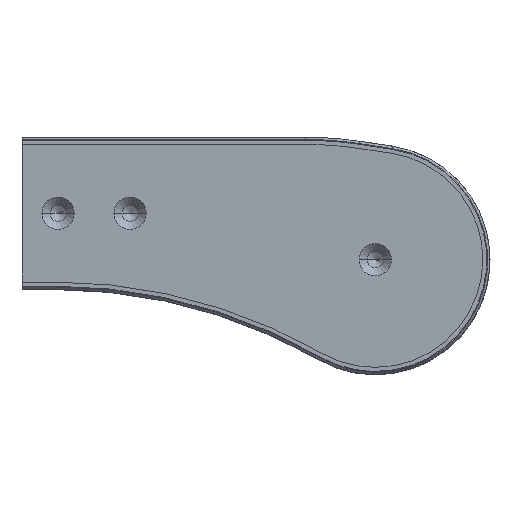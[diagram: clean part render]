
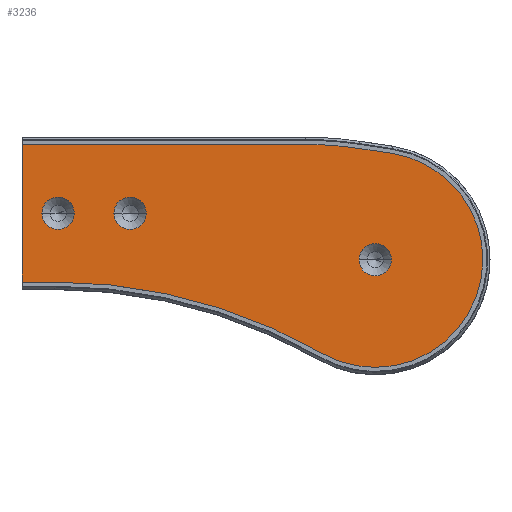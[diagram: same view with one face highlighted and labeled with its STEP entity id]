
A CAD part, top view. The second image highlights one B-rep face of the part: STEP entity #3236.
In plain terms, the highlighted planar face has unit normal (0, 0, 1).
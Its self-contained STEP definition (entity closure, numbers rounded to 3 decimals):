
#10 = ORIENTED_EDGE ( 'NONE', *, *, #1603, .T. ) ;
#49 = EDGE_CURVE ( 'NONE', #2266, #1284, #472, .T. ) ;
#74 = LINE ( 'NONE', #1630, #2653 ) ;
#75 = DIRECTION ( 'NONE',  ( 1., 0., 0. ) ) ;
#121 = ORIENTED_EDGE ( 'NONE', *, *, #3304, .F. ) ;
#133 = AXIS2_PLACEMENT_3D ( 'NONE', #1650, #2667, #1082 ) ;
#167 = CARTESIAN_POINT ( 'NONE',  ( 0., 0., 0. ) ) ;
#172 = CIRCLE ( 'NONE', #3316, 8.96 ) ;
#200 = VERTEX_POINT ( 'NONE', #2158 ) ;
#209 = VECTOR ( 'NONE', #242, 1000. ) ;
#225 = AXIS2_PLACEMENT_3D ( 'NONE', #1300, #450, #1549 ) ;
#242 = DIRECTION ( 'NONE',  ( -0.989, 0.149, 0. ) ) ;
#253 = EDGE_CURVE ( 'NONE', #3336, #1460, #1476, .T. ) ;
#256 = AXIS2_PLACEMENT_3D ( 'NONE', #167, #1770, #3082 ) ;
#264 = ORIENTED_EDGE ( 'NONE', *, *, #1746, .F. ) ;
#403 = DIRECTION ( 'NONE',  ( 1., 0., 0. ) ) ;
#450 = DIRECTION ( 'NONE',  ( 0., 0., 1. ) ) ;
#472 = LINE ( 'NONE', #2615, #3447 ) ;
#501 = DIRECTION ( 'NONE',  ( 0., -1., 0. ) ) ;
#515 = ORIENTED_EDGE ( 'NONE', *, *, #49, .T. ) ;
#519 = EDGE_LOOP ( 'NONE', ( #264, #2431 ) ) ;
#549 = ORIENTED_EDGE ( 'NONE', *, *, #2197, .T. ) ;
#578 = EDGE_CURVE ( 'NONE', #830, #2161, #172, .T. ) ;
#603 = CIRCLE ( 'NONE', #2975, 8.96 ) ;
#626 = AXIS2_PLACEMENT_3D ( 'NONE', #873, #1692, #75 ) ;
#643 = EDGE_CURVE ( 'NONE', #1072, #200, #2219, .T. ) ;
#690 = CARTESIAN_POINT ( 'NONE',  ( -178.069, -311.075, 0. ) ) ;
#830 = VERTEX_POINT ( 'NONE', #2447 ) ;
#852 = FACE_BOUND ( 'NONE', #3275, .T. ) ;
#873 = CARTESIAN_POINT ( 'NONE',  ( -38.772, -135.998, 0. ) ) ;
#914 = VECTOR ( 'NONE', #501, 1000. ) ;
#916 = VERTEX_POINT ( 'NONE', #2177 ) ;
#944 = DIRECTION ( 'NONE',  ( 0., 0., 1. ) ) ;
#976 = CARTESIAN_POINT ( 'NONE',  ( 0., 0., 0. ) ) ;
#1012 = CIRCLE ( 'NONE', #256, 59.75 ) ;
#1072 = VERTEX_POINT ( 'NONE', #2758 ) ;
#1082 = DIRECTION ( 'NONE',  ( 1., 0., 0. ) ) ;
#1102 = DIRECTION ( 'NONE',  ( 0., 0., 1. ) ) ;
#1103 = FACE_BOUND ( 'NONE', #519, .T. ) ;
#1111 = CARTESIAN_POINT ( 'NONE',  ( 8.881, 59.086, 0. ) ) ;
#1128 = EDGE_CURVE ( 'NONE', #916, #3302, #1012, .T. ) ;
#1131 = LINE ( 'NONE', #1111, #209 ) ;
#1136 = CIRCLE ( 'NONE', #1248, 8.96 ) ;
#1149 = CIRCLE ( 'NONE', #3333, 8.96 ) ;
#1163 = VERTEX_POINT ( 'NONE', #3056 ) ;
#1171 = DIRECTION ( 'NONE',  ( 1., 0., 0. ) ) ;
#1193 = FACE_OUTER_BOUND ( 'NONE', #2820, .T. ) ;
#1204 = CARTESIAN_POINT ( 'NONE',  ( -9.043, 61.78, 0. ) ) ;
#1237 = DIRECTION ( 'NONE',  ( 0., 0., -1. ) ) ;
#1248 = AXIS2_PLACEMENT_3D ( 'NONE', #1728, #1431, #1171 ) ;
#1284 = VERTEX_POINT ( 'NONE', #1805 ) ;
#1300 = CARTESIAN_POINT ( 'NONE',  ( -176.048, 25.811, 0. ) ) ;
#1431 = DIRECTION ( 'NONE',  ( 0., 0., 1. ) ) ;
#1460 = VERTEX_POINT ( 'NONE', #1624 ) ;
#1468 = VERTEX_POINT ( 'NONE', #2926 ) ;
#1476 = CIRCLE ( 'NONE', #133, 8.96 ) ;
#1483 = VERTEX_POINT ( 'NONE', #1607 ) ;
#1536 = DIRECTION ( 'NONE',  ( 0., 0., 1. ) ) ;
#1544 = DIRECTION ( 'NONE',  ( 1., 0., 0. ) ) ;
#1549 = DIRECTION ( 'NONE',  ( 1., 0., 0. ) ) ;
#1566 = CARTESIAN_POINT ( 'NONE',  ( -136.048, 25.808, 0. ) ) ;
#1579 = DIRECTION ( 'NONE',  ( 1., 0., 0. ) ) ;
#1603 = EDGE_CURVE ( 'NONE', #3027, #1483, #2381, .T. ) ;
#1607 = CARTESIAN_POINT ( 'NONE',  ( -38.76, 64.002, 0. ) ) ;
#1624 = CARTESIAN_POINT ( 'NONE',  ( -8.96, 0., 0. ) ) ;
#1630 = CARTESIAN_POINT ( 'NONE',  ( -38.76, 64.002, 0. ) ) ;
#1650 = CARTESIAN_POINT ( 'NONE',  ( 0., 0., 0. ) ) ;
#1680 = AXIS2_PLACEMENT_3D ( 'NONE', #1839, #2132, #2608 ) ;
#1692 = DIRECTION ( 'NONE',  ( 0., 0., 1. ) ) ;
#1698 = EDGE_LOOP ( 'NONE', ( #2777, #121 ) ) ;
#1708 = ORIENTED_EDGE ( 'NONE', *, *, #2137, .F. ) ;
#1728 = CARTESIAN_POINT ( 'NONE',  ( -176.048, 25.811, 0. ) ) ;
#1745 = CIRCLE ( 'NONE', #1754, 298.685 ) ;
#1746 = EDGE_CURVE ( 'NONE', #200, #1072, #1136, .T. ) ;
#1754 = AXIS2_PLACEMENT_3D ( 'NONE', #690, #1237, #3087 ) ;
#1756 = ORIENTED_EDGE ( 'NONE', *, *, #2093, .T. ) ;
#1759 = AXIS2_PLACEMENT_3D ( 'NONE', #3313, #3345, #403 ) ;
#1770 = DIRECTION ( 'NONE',  ( 0., 0., 1. ) ) ;
#1805 = CARTESIAN_POINT ( 'NONE',  ( -178.051, -12.389, 0. ) ) ;
#1839 = CARTESIAN_POINT ( 'NONE',  ( -178.069, -311.075, 0. ) ) ;
#1869 = PLANE ( 'NONE',  #1680 ) ;
#1904 = FACE_BOUND ( 'NONE', #1698, .T. ) ;
#1921 = EDGE_CURVE ( 'NONE', #1483, #1163, #74, .T. ) ;
#2093 = EDGE_CURVE ( 'NONE', #1468, #916, #2097, .T. ) ;
#2097 = CIRCLE ( 'NONE', #1759, 59.75 ) ;
#2109 = CARTESIAN_POINT ( 'NONE',  ( -196.051, -12.388, 0. ) ) ;
#2120 = CARTESIAN_POINT ( 'NONE',  ( 8.881, 59.086, 0. ) ) ;
#2132 = DIRECTION ( 'NONE',  ( 0., 0., 1. ) ) ;
#2137 = EDGE_CURVE ( 'NONE', #1460, #3336, #603, .T. ) ;
#2158 = CARTESIAN_POINT ( 'NONE',  ( -167.088, 25.811, 0. ) ) ;
#2161 = VERTEX_POINT ( 'NONE', #2831 ) ;
#2165 = CARTESIAN_POINT ( 'NONE',  ( 8.96, 0., 0. ) ) ;
#2177 = CARTESIAN_POINT ( 'NONE',  ( 59.75, 0., 0. ) ) ;
#2197 = EDGE_CURVE ( 'NONE', #1163, #2266, #2486, .T. ) ;
#2219 = CIRCLE ( 'NONE', #225, 8.96 ) ;
#2226 = ORIENTED_EDGE ( 'NONE', *, *, #2362, .T. ) ;
#2266 = VERTEX_POINT ( 'NONE', #2109 ) ;
#2282 = CARTESIAN_POINT ( 'NONE',  ( -196.046, 64.012, 0. ) ) ;
#2362 = EDGE_CURVE ( 'NONE', #3302, #3027, #1131, .T. ) ;
#2381 = CIRCLE ( 'NONE', #626, 200. ) ;
#2431 = ORIENTED_EDGE ( 'NONE', *, *, #643, .F. ) ;
#2447 = CARTESIAN_POINT ( 'NONE',  ( -127.088, 25.808, 0. ) ) ;
#2486 = LINE ( 'NONE', #2282, #914 ) ;
#2530 = ORIENTED_EDGE ( 'NONE', *, *, #3211, .T. ) ;
#2597 = ORIENTED_EDGE ( 'NONE', *, *, #1921, .T. ) ;
#2608 = DIRECTION ( 'NONE',  ( 1., 0., 0. ) ) ;
#2615 = CARTESIAN_POINT ( 'NONE',  ( -196.051, -12.388, 0. ) ) ;
#2647 = DIRECTION ( 'NONE',  ( 1., 0., 0. ) ) ;
#2653 = VECTOR ( 'NONE', #3194, 1000. ) ;
#2667 = DIRECTION ( 'NONE',  ( 0., 0., 1. ) ) ;
#2758 = CARTESIAN_POINT ( 'NONE',  ( -185.008, 25.811, 0. ) ) ;
#2777 = ORIENTED_EDGE ( 'NONE', *, *, #578, .F. ) ;
#2820 = EDGE_LOOP ( 'NONE', ( #2530, #1756, #3003, #2226, #10, #2597, #549, #515 ) ) ;
#2831 = CARTESIAN_POINT ( 'NONE',  ( -145.008, 25.808, 0. ) ) ;
#2926 = CARTESIAN_POINT ( 'NONE',  ( -29.683, -51.855, 0. ) ) ;
#2975 = AXIS2_PLACEMENT_3D ( 'NONE', #976, #944, #3067 ) ;
#3003 = ORIENTED_EDGE ( 'NONE', *, *, #1128, .T. ) ;
#3027 = VERTEX_POINT ( 'NONE', #1204 ) ;
#3056 = CARTESIAN_POINT ( 'NONE',  ( -196.046, 64.012, 0. ) ) ;
#3067 = DIRECTION ( 'NONE',  ( 1., 0., 0. ) ) ;
#3082 = DIRECTION ( 'NONE',  ( 1., 0., 0. ) ) ;
#3087 = DIRECTION ( 'NONE',  ( 1., 0., 0. ) ) ;
#3194 = DIRECTION ( 'NONE',  ( -1., 0., 0. ) ) ;
#3211 = EDGE_CURVE ( 'NONE', #1284, #1468, #1745, .T. ) ;
#3236 = ADVANCED_FACE ( 'NONE', ( #1103, #1904, #852, #1193 ), #1869, .T. ) ;
#3275 = EDGE_LOOP ( 'NONE', ( #3406, #1708 ) ) ;
#3302 = VERTEX_POINT ( 'NONE', #2120 ) ;
#3304 = EDGE_CURVE ( 'NONE', #2161, #830, #1149, .T. ) ;
#3313 = CARTESIAN_POINT ( 'NONE',  ( 0., 0., 0. ) ) ;
#3316 = AXIS2_PLACEMENT_3D ( 'NONE', #1566, #1536, #1579 ) ;
#3333 = AXIS2_PLACEMENT_3D ( 'NONE', #3444, #1102, #2647 ) ;
#3336 = VERTEX_POINT ( 'NONE', #2165 ) ;
#3345 = DIRECTION ( 'NONE',  ( 0., 0., 1. ) ) ;
#3406 = ORIENTED_EDGE ( 'NONE', *, *, #253, .F. ) ;
#3444 = CARTESIAN_POINT ( 'NONE',  ( -136.048, 25.808, 0. ) ) ;
#3447 = VECTOR ( 'NONE', #1544, 1000. ) ;
